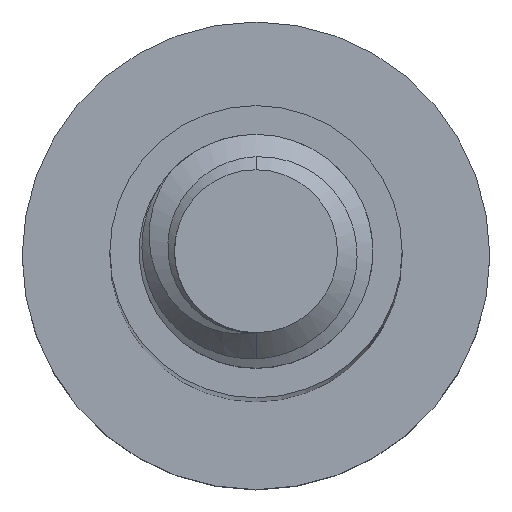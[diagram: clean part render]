
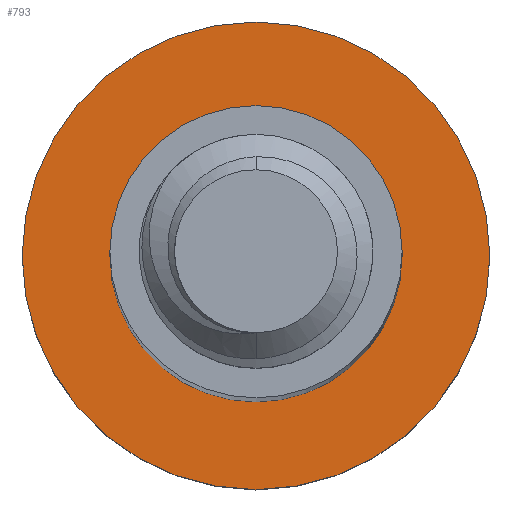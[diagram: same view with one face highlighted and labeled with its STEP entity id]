
A CAD part, top view. The second image highlights one B-rep face of the part: STEP entity #793.
In plain terms, the highlighted planar face has unit normal (0, 0, 1).
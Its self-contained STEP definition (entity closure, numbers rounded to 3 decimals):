
#13 = EDGE_CURVE ( 'NONE', #842, #1764, #74, .T. ) ;
#32 = VERTEX_POINT ( 'NONE', #1212 ) ;
#74 = CIRCLE ( 'NONE', #644, 2.5 ) ;
#103 = VERTEX_POINT ( 'NONE', #1706 ) ;
#110 = CIRCLE ( 'NONE', #399, 4. ) ;
#118 = CARTESIAN_POINT ( 'NONE',  ( -2.5, 0., -40. ) ) ;
#289 = CIRCLE ( 'NONE', #1192, 4. ) ;
#310 = DIRECTION ( 'NONE',  ( -1., 0., 0. ) ) ;
#391 = CARTESIAN_POINT ( 'NONE',  ( 0., 0., -40. ) ) ;
#399 = AXIS2_PLACEMENT_3D ( 'NONE', #1975, #1495, #310 ) ;
#546 = AXIS2_PLACEMENT_3D ( 'NONE', #1948, #1651, #830 ) ;
#644 = AXIS2_PLACEMENT_3D ( 'NONE', #391, #1875, #1387 ) ;
#659 = PLANE ( 'NONE',  #546 ) ;
#710 = ORIENTED_EDGE ( 'NONE', *, *, #1547, .F. ) ;
#756 = DIRECTION ( 'NONE',  ( 0., 0., -1. ) ) ;
#770 = ORIENTED_EDGE ( 'NONE', *, *, #999, .T. ) ;
#793 = ADVANCED_FACE ( 'NONE', ( #1455, #1490 ), #659, .F. ) ;
#830 = DIRECTION ( 'NONE',  ( -1., 0., 0. ) ) ;
#842 = VERTEX_POINT ( 'NONE', #118 ) ;
#999 = EDGE_CURVE ( 'NONE', #1764, #842, #1326, .T. ) ;
#1065 = ORIENTED_EDGE ( 'NONE', *, *, #13, .T. ) ;
#1083 = EDGE_LOOP ( 'NONE', ( #1065, #770 ) ) ;
#1104 = DIRECTION ( 'NONE',  ( 0., 0., -1. ) ) ;
#1192 = AXIS2_PLACEMENT_3D ( 'NONE', #1430, #1104, #1880 ) ;
#1212 = CARTESIAN_POINT ( 'NONE',  ( -4., 0., -40. ) ) ;
#1273 = ORIENTED_EDGE ( 'NONE', *, *, #1733, .F. ) ;
#1326 = CIRCLE ( 'NONE', #1477, 2.5 ) ;
#1387 = DIRECTION ( 'NONE',  ( -1., 0., 0. ) ) ;
#1430 = CARTESIAN_POINT ( 'NONE',  ( 0., 0., -40. ) ) ;
#1455 = FACE_BOUND ( 'NONE', #1083, .T. ) ;
#1477 = AXIS2_PLACEMENT_3D ( 'NONE', #1913, #756, #1680 ) ;
#1490 = FACE_OUTER_BOUND ( 'NONE', #1953, .T. ) ;
#1495 = DIRECTION ( 'NONE',  ( 0., 0., -1. ) ) ;
#1547 = EDGE_CURVE ( 'NONE', #32, #103, #289, .T. ) ;
#1651 = DIRECTION ( 'NONE',  ( 0., 0., -1. ) ) ;
#1658 = CARTESIAN_POINT ( 'NONE',  ( 2.5, 0., -40. ) ) ;
#1680 = DIRECTION ( 'NONE',  ( -1., 0., 0. ) ) ;
#1706 = CARTESIAN_POINT ( 'NONE',  ( 4., 0., -40. ) ) ;
#1733 = EDGE_CURVE ( 'NONE', #103, #32, #110, .T. ) ;
#1764 = VERTEX_POINT ( 'NONE', #1658 ) ;
#1875 = DIRECTION ( 'NONE',  ( 0., 0., -1. ) ) ;
#1880 = DIRECTION ( 'NONE',  ( -1., 0., 0. ) ) ;
#1913 = CARTESIAN_POINT ( 'NONE',  ( 0., 0., -40. ) ) ;
#1948 = CARTESIAN_POINT ( 'NONE',  ( 0., 0., -40. ) ) ;
#1953 = EDGE_LOOP ( 'NONE', ( #1273, #710 ) ) ;
#1975 = CARTESIAN_POINT ( 'NONE',  ( 0., 0., -40. ) ) ;
